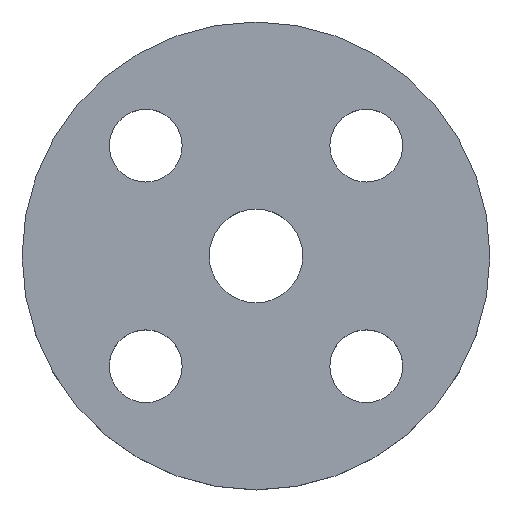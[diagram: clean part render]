
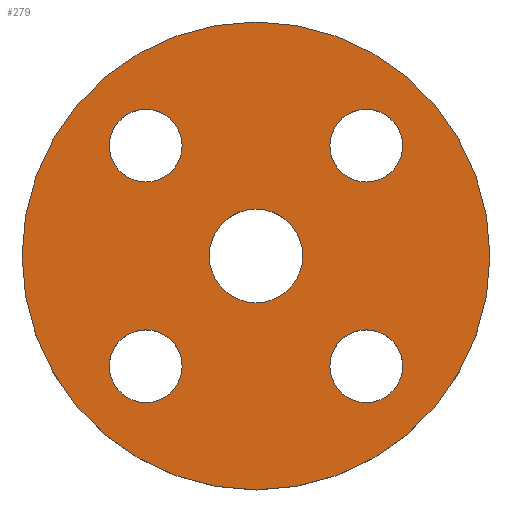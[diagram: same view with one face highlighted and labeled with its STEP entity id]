
A CAD part, top view. The second image highlights one B-rep face of the part: STEP entity #279.
In plain terms, the highlighted planar face has unit normal (0, 0, 1).
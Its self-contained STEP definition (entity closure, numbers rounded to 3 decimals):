
#1 = CARTESIAN_POINT ( 'NONE',  ( 0., 0., 0. ) ) ;
#2 = PLANE ( 'NONE',  #187 ) ;
#3 = DIRECTION ( 'NONE',  ( 0., 0., -1. ) ) ;
#4 = FACE_OUTER_BOUND ( 'NONE', #132, .T. ) ;
#5 = FACE_BOUND ( 'NONE', #152, .T. ) ;
#6 = FACE_BOUND ( 'NONE', #154, .T. ) ;
#7 = FACE_BOUND ( 'NONE', #255, .T. ) ;
#8 = FACE_BOUND ( 'NONE', #175, .T. ) ;
#9 = FACE_BOUND ( 'NONE', #133, .T. ) ;
#12 = DIRECTION ( 'NONE',  ( -1., 0., 0. ) ) ;
#25 = CARTESIAN_POINT ( 'NONE',  ( -45., 0., 0. ) ) ;
#31 = EDGE_CURVE ( 'NONE', #121, #115, #412, .T. ) ;
#34 = CARTESIAN_POINT ( 'NONE',  ( -21.213, 21.213, 0. ) ) ;
#37 = DIRECTION ( 'NONE',  ( 0., 0., -1. ) ) ;
#44 = DIRECTION ( 'NONE',  ( -1., 0., 0. ) ) ;
#60 = CARTESIAN_POINT ( 'NONE',  ( -28.213, 21.213, 0. ) ) ;
#61 = CARTESIAN_POINT ( 'NONE',  ( 28.213, -21.213, 0. ) ) ;
#62 = CARTESIAN_POINT ( 'NONE',  ( 9., 0., 0. ) ) ;
#68 = CARTESIAN_POINT ( 'NONE',  ( 21.213, 21.213, 0. ) ) ;
#72 = DIRECTION ( 'NONE',  ( 0., 0., -1. ) ) ;
#74 = CARTESIAN_POINT ( 'NONE',  ( 45., 0., 0. ) ) ;
#76 = CARTESIAN_POINT ( 'NONE',  ( -9., 0., 0. ) ) ;
#77 = CARTESIAN_POINT ( 'NONE',  ( 28.213, 21.213, 0. ) ) ;
#78 = CARTESIAN_POINT ( 'NONE',  ( -14.213, 21.213, 0. ) ) ;
#79 = CARTESIAN_POINT ( 'NONE',  ( -28.213, -21.213, 0. ) ) ;
#80 = CARTESIAN_POINT ( 'NONE',  ( -14.213, -21.213, 0. ) ) ;
#91 = CARTESIAN_POINT ( 'NONE',  ( 14.213, -21.213, 0. ) ) ;
#92 = CARTESIAN_POINT ( 'NONE',  ( 14.213, 21.213, 0. ) ) ;
#93 = DIRECTION ( 'NONE',  ( -1., 0., 0. ) ) ;
#94 = DIRECTION ( 'NONE',  ( 0., 0., -1. ) ) ;
#96 = CARTESIAN_POINT ( 'NONE',  ( -21.213, -21.213, 0. ) ) ;
#97 = VERTEX_POINT ( 'NONE', #92 ) ;
#98 = VERTEX_POINT ( 'NONE', #91 ) ;
#102 = ORIENTED_EDGE ( 'NONE', *, *, #504, .T. ) ;
#113 = CIRCLE ( 'NONE', #363, 7. ) ;
#115 = VERTEX_POINT ( 'NONE', #80 ) ;
#116 = ORIENTED_EDGE ( 'NONE', *, *, #445, .T. ) ;
#119 = CARTESIAN_POINT ( 'NONE',  ( 21.213, -21.213, 0. ) ) ;
#121 = VERTEX_POINT ( 'NONE', #79 ) ;
#124 = VERTEX_POINT ( 'NONE', #78 ) ;
#125 = VERTEX_POINT ( 'NONE', #77 ) ;
#126 = VERTEX_POINT ( 'NONE', #76 ) ;
#127 = DIRECTION ( 'NONE',  ( 0., 0., -1. ) ) ;
#130 = DIRECTION ( 'NONE',  ( -1., 0., 0. ) ) ;
#132 = EDGE_LOOP ( 'NONE', ( #176, #260 ) ) ;
#133 = EDGE_LOOP ( 'NONE', ( #236, #235 ) ) ;
#152 = EDGE_LOOP ( 'NONE', ( #102, #174 ) ) ;
#153 = VERTEX_POINT ( 'NONE', #74 ) ;
#154 = EDGE_LOOP ( 'NONE', ( #238, #253 ) ) ;
#159 = AXIS2_PLACEMENT_3D ( 'NONE', #421, #422, #425 ) ;
#165 = CIRCLE ( 'NONE', #331, 45. ) ;
#166 = VERTEX_POINT ( 'NONE', #62 ) ;
#167 = CIRCLE ( 'NONE', #159, 9. ) ;
#169 = VERTEX_POINT ( 'NONE', #61 ) ;
#170 = VERTEX_POINT ( 'NONE', #60 ) ;
#174 = ORIENTED_EDGE ( 'NONE', *, *, #484, .T. ) ;
#175 = EDGE_LOOP ( 'NONE', ( #197, #239 ) ) ;
#176 = ORIENTED_EDGE ( 'NONE', *, *, #433, .T. ) ;
#187 = AXIS2_PLACEMENT_3D ( 'NONE', #1, #431, #506 ) ;
#197 = ORIENTED_EDGE ( 'NONE', *, *, #463, .T. ) ;
#208 = CARTESIAN_POINT ( 'NONE',  ( 21.213, 21.213, 0. ) ) ;
#210 = AXIS2_PLACEMENT_3D ( 'NONE', #68, #72, #492 ) ;
#217 = AXIS2_PLACEMENT_3D ( 'NONE', #415, #3, #12 ) ;
#218 = DIRECTION ( 'NONE',  ( 0., 0., -1. ) ) ;
#224 = DIRECTION ( 'NONE',  ( -1., 0., 0. ) ) ;
#235 = ORIENTED_EDGE ( 'NONE', *, *, #455, .T. ) ;
#236 = ORIENTED_EDGE ( 'NONE', *, *, #344, .T. ) ;
#238 = ORIENTED_EDGE ( 'NONE', *, *, #496, .T. ) ;
#239 = ORIENTED_EDGE ( 'NONE', *, *, #31, .T. ) ;
#245 = ORIENTED_EDGE ( 'NONE', *, *, #312, .T. ) ;
#249 = CARTESIAN_POINT ( 'NONE',  ( 0., 0., 0. ) ) ;
#252 = DIRECTION ( 'NONE',  ( 0., 0., 1. ) ) ;
#253 = ORIENTED_EDGE ( 'NONE', *, *, #486, .T. ) ;
#255 = EDGE_LOOP ( 'NONE', ( #116, #245 ) ) ;
#259 = DIRECTION ( 'NONE',  ( 1., 0., 0. ) ) ;
#260 = ORIENTED_EDGE ( 'NONE', *, *, #435, .T. ) ;
#261 = VERTEX_POINT ( 'NONE', #25 ) ;
#266 = CARTESIAN_POINT ( 'NONE',  ( 0., 0., 0. ) ) ;
#267 = DIRECTION ( 'NONE',  ( 0., 0., 1. ) ) ;
#279 = ADVANCED_FACE ( 'NONE', ( #9, #8, #7, #6, #5, #4 ), #2, .T. ) ;
#286 = DIRECTION ( 'NONE',  ( 1., 0., 0. ) ) ;
#303 = CIRCLE ( 'NONE', #217, 9. ) ;
#310 = CARTESIAN_POINT ( 'NONE',  ( -21.213, 21.213, 0. ) ) ;
#312 = EDGE_CURVE ( 'NONE', #170, #124, #485, .T. ) ;
#313 = DIRECTION ( 'NONE',  ( 0., 0., -1. ) ) ;
#314 = DIRECTION ( 'NONE',  ( -1., 0., 0. ) ) ;
#329 = AXIS2_PLACEMENT_3D ( 'NONE', #351, #354, #360 ) ;
#331 = AXIS2_PLACEMENT_3D ( 'NONE', #249, #252, #259 ) ;
#344 = EDGE_CURVE ( 'NONE', #169, #98, #418, .T. ) ;
#346 = CARTESIAN_POINT ( 'NONE',  ( 21.213, -21.213, 0. ) ) ;
#348 = DIRECTION ( 'NONE',  ( 0., 0., -1. ) ) ;
#349 = DIRECTION ( 'NONE',  ( -1., 0., 0. ) ) ;
#351 = CARTESIAN_POINT ( 'NONE',  ( -21.213, -21.213, 0. ) ) ;
#354 = DIRECTION ( 'NONE',  ( 0., 0., -1. ) ) ;
#360 = DIRECTION ( 'NONE',  ( -1., 0., 0. ) ) ;
#361 = CIRCLE ( 'NONE', #362, 7. ) ;
#362 = AXIS2_PLACEMENT_3D ( 'NONE', #346, #348, #349 ) ;
#363 = AXIS2_PLACEMENT_3D ( 'NONE', #208, #218, #224 ) ;
#373 = CIRCLE ( 'NONE', #210, 7. ) ;
#398 = AXIS2_PLACEMENT_3D ( 'NONE', #266, #267, #286 ) ;
#399 = CIRCLE ( 'NONE', #398, 45. ) ;
#412 = CIRCLE ( 'NONE', #416, 7. ) ;
#415 = CARTESIAN_POINT ( 'NONE',  ( 0., 0., 0. ) ) ;
#416 = AXIS2_PLACEMENT_3D ( 'NONE', #96, #94, #93 ) ;
#418 = CIRCLE ( 'NONE', #499, 7. ) ;
#421 = CARTESIAN_POINT ( 'NONE',  ( 0., 0., 0. ) ) ;
#422 = DIRECTION ( 'NONE',  ( 0., 0., -1. ) ) ;
#425 = DIRECTION ( 'NONE',  ( -1., 0., 0. ) ) ;
#429 = AXIS2_PLACEMENT_3D ( 'NONE', #34, #37, #44 ) ;
#431 = DIRECTION ( 'NONE',  ( 0., 0., 1. ) ) ;
#433 = EDGE_CURVE ( 'NONE', #153, #261, #165, .T. ) ;
#435 = EDGE_CURVE ( 'NONE', #261, #153, #399, .T. ) ;
#445 = EDGE_CURVE ( 'NONE', #124, #170, #497, .T. ) ;
#455 = EDGE_CURVE ( 'NONE', #98, #169, #361, .T. ) ;
#463 = EDGE_CURVE ( 'NONE', #115, #121, #494, .T. ) ;
#465 = AXIS2_PLACEMENT_3D ( 'NONE', #310, #313, #314 ) ;
#484 = EDGE_CURVE ( 'NONE', #166, #126, #303, .T. ) ;
#485 = CIRCLE ( 'NONE', #429, 7. ) ;
#486 = EDGE_CURVE ( 'NONE', #97, #125, #373, .T. ) ;
#492 = DIRECTION ( 'NONE',  ( -1., 0., 0. ) ) ;
#494 = CIRCLE ( 'NONE', #329, 7. ) ;
#496 = EDGE_CURVE ( 'NONE', #125, #97, #113, .T. ) ;
#497 = CIRCLE ( 'NONE', #465, 7. ) ;
#499 = AXIS2_PLACEMENT_3D ( 'NONE', #119, #127, #130 ) ;
#504 = EDGE_CURVE ( 'NONE', #126, #166, #167, .T. ) ;
#506 = DIRECTION ( 'NONE',  ( 1., 0., 0. ) ) ;
